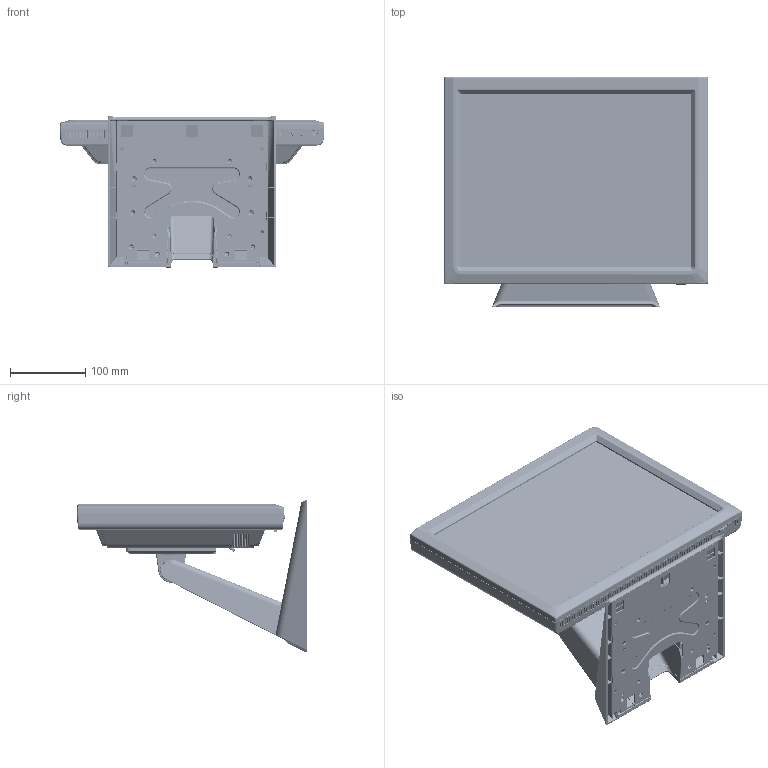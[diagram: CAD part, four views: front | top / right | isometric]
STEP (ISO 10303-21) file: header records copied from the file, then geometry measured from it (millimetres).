
FILE_DESCRIPTION (( 'STEP AP203' ), '1' );
FILE_NAME ('997-5967-02_A_PT1545R.STEP', '2021-07-26T16:40:36', ( '' ), ( '' ), 'SwSTEP 2.0', 'SolidWorks 2019', '' );
FILE_SCHEMA (( 'CONFIG_CONTROL_DESIGN' ));
Products named in the file (1): 997-5967-02_A_PT1545R
Bounding box: 350.8 x 305.42 x 201.98 mm (x, y, z)
Surface area: 1174019.8 mm2 (no closed solid volume)
Topology: 0 solids, 22 shells, 15978 faces, 43561 edges, 27811 vertices
Faces by surface type: plane 9279, cylinder 4714, bspline 1180, torus 447, cone 300, sphere 58
Full cylindrical faces by diameter (mm): 1 x9, 1.2 x1, 2.261 x2, 3 x1, 3.25 x2, 3.6 x1, 4 x1, 6 x1
Entity records: 674318 total; most frequent: CARTESIAN_POINT 302909, ORIENTED_EDGE 86900, DIRECTION 62956, EDGE_CURVE 43472, VERTEX_POINT 27769, LINE 22710, VECTOR 22710, AXIS2_PLACEMENT_3D 20123
